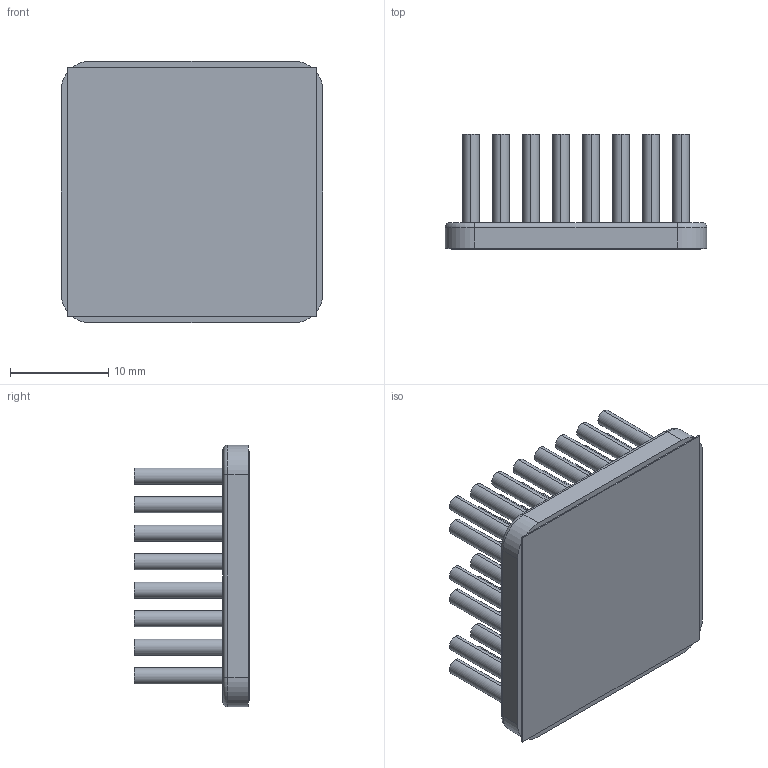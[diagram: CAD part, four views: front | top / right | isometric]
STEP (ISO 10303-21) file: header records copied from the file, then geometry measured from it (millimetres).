
FILE_DESCRIPTION (( 'STEP AP214' ), '1' );
FILE_NAME ('INM27002-12P-2.6.STEP', '2023-02-17T20:23:22', ( '' ), ( '' ), 'SwSTEP 2.0', 'SolidWorks 2020', '' );
FILE_SCHEMA (( 'AUTOMOTIVE_DESIGN' ));
Length unit declared in the file: inch
Products named in the file (1): INM27002-12P-2.6
Bounding box: 26.6 x 11.73 x 26.6 mm (x, y, z)
Volume: 2973.8 mm3; surface area: 5556.8 mm2
Topology: 2 solids, 2 shells, 192 faces, 388 edges, 256 vertices
Faces by surface type: cylinder 120, plane 68, torus 4
Entity records: 7679 total; most frequent: DIRECTION 1018, CARTESIAN_POINT 837, ORIENTED_EDGE 776, AXIS2_PLACEMENT_3D 437, EDGE_CURVE 388, VERTEX_POINT 256, EDGE_LOOP 248, CIRCLE 244
